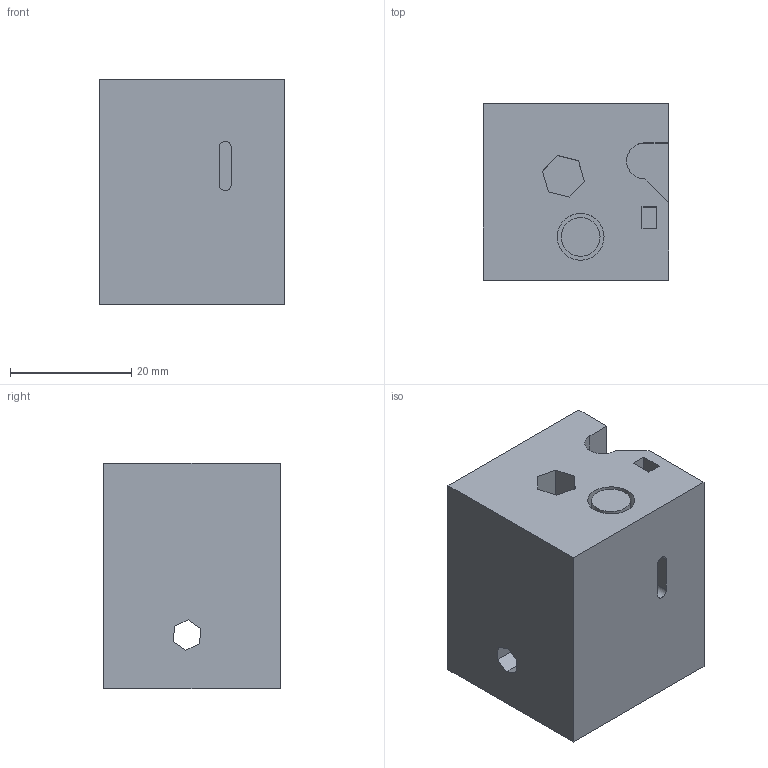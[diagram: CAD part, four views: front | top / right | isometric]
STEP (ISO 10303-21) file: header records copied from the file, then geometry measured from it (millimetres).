
FILE_DESCRIPTION(('Open CASCADE Model'),'2;1');
FILE_NAME('Open CASCADE Shape Model','2021-05-13T19:23:15',('Author'),( 'Open CASCADE'),'Open CASCADE STEP processor 7.4','Open CASCADE 7.4' ,'Unknown');
FILE_SCHEMA(('AUTOMOTIVE_DESIGN { 1 0 10303 214 1 1 1 1 }'));
Length unit declared in the file: millimetre
Products named in the file (1): Open CASCADE STEP translator 7.4 1815
Bounding box: 30.57 x 29.23 x 37.26 mm (x, y, z)
Volume: 30735.6 mm3; surface area: 8204.5 mm2
Topology: 1 solids, 1 shells, 42 faces, 100 edges, 67 vertices
Faces by surface type: plane 35, cylinder 7
Full cylindrical faces by diameter (mm): 1.445 x1, 2.148 x1, 6.406 x1, 7.733 x1
Entity records: 2526 total; most frequent: CARTESIAN_POINT 458, DIRECTION 382, LINE 260, VECTOR 260, ORIENTED_EDGE 200, PCURVE 200, DEFINITIONAL_REPRESENTATION 200, EDGE_CURVE 100
